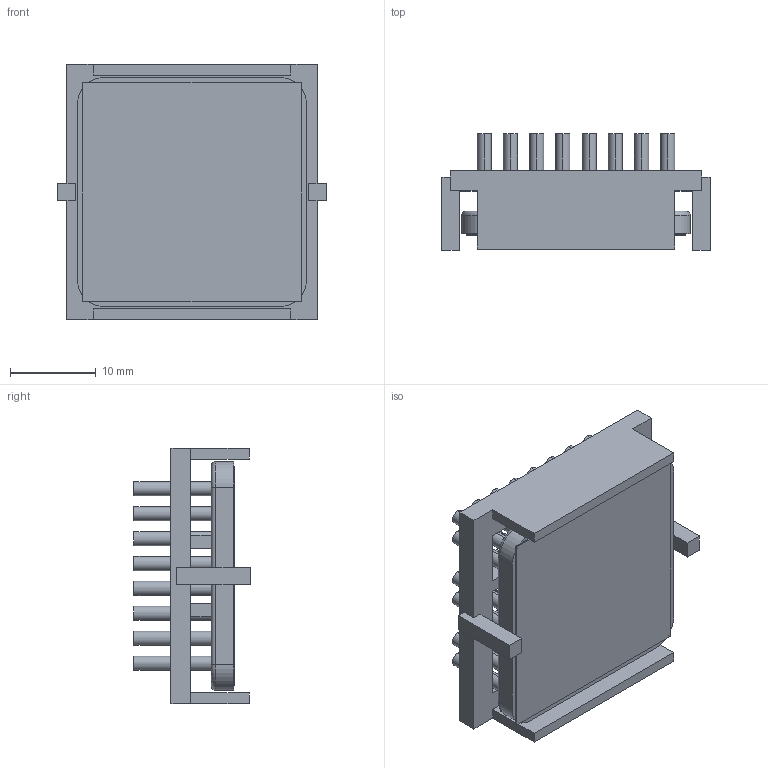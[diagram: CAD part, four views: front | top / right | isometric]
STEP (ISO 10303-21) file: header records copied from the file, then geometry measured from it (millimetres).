
FILE_DESCRIPTION (( 'STEP AP214' ), '1' );
FILE_NAME ('INM27002-12P-2.6BU.STEP', '2023-02-17T20:23:08', ( '' ), ( '' ), 'SwSTEP 2.0', 'SolidWorks 2020', '' );
FILE_SCHEMA (( 'AUTOMOTIVE_DESIGN' ));
Length unit declared in the file: millimetre
Products named in the file (1): INM27002-12P-2.6BU
Bounding box: 31.2 x 13.5 x 29.7 mm (x, y, z)
Volume: 4328.1 mm3; surface area: 7752.5 mm2
Topology: 3 solids, 3 shells, 246 faces, 544 edges, 360 vertices
Faces by surface type: plane 122, cylinder 120, torus 4
Entity records: 9630 total; most frequent: DIRECTION 1282, CARTESIAN_POINT 1151, ORIENTED_EDGE 1088, EDGE_CURVE 544, AXIS2_PLACEMENT_3D 491, VERTEX_POINT 360, EDGE_LOOP 304, VECTOR 300
